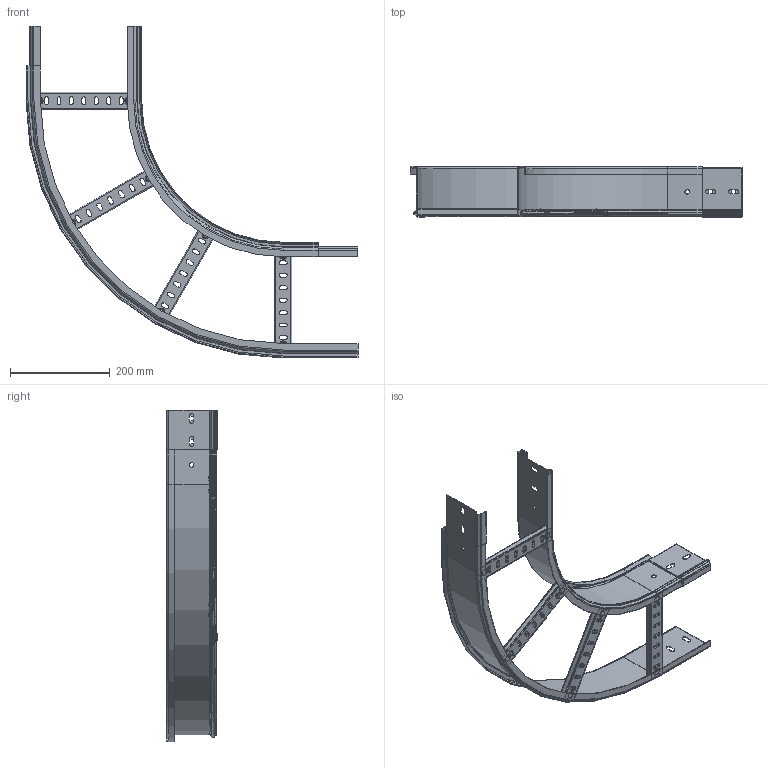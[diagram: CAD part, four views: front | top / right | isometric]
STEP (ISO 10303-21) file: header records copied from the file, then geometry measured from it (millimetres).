
FILE_DESCRIPTION (( 'STEP AP203' ), '1' );
FILE_NAME ('200x100.step', '2023-08-01T07:33:52', ( '' ), ( '' ), 'SwSTEP 2.0', 'SolidWorks 2022', '' );
FILE_SCHEMA (( 'CONFIG_CONTROL_DESIGN' ));
Length unit declared in the file: millimetre
Products named in the file (4): FER_EXTERIOR CP_Circular_Enchufable_200x100; FER_INTERIOR CP_Circular_Enchufable_100; Travesaño RAT35 FER GS_200; 200x100
Assembly tree (6 placements, depth 2):
  200x100
    FER_INTERIOR CP_Circular_Enchufable_100
    Travesaño RAT35 FER GS_200  x4
    FER_EXTERIOR CP_Circular_Enchufable_200x100
Bounding box: 666 x 101.5 x 666 mm (x, y, z)
Volume: 79801.2 mm3; surface area: 638675.8 mm2
Topology: 4 solids, 10 shells, 652 faces, 1590 edges, 970 vertices
Faces by surface type: plane 344, cylinder 202, torus 86, cone 20
Entity records: 11458 total; most frequent: CARTESIAN_POINT 1984, DIRECTION 1978, ORIENTED_EDGE 1772, EDGE_CURVE 918, AXIS2_PLACEMENT_3D 710, VERTEX_POINT 562, LINE 558, VECTOR 558
